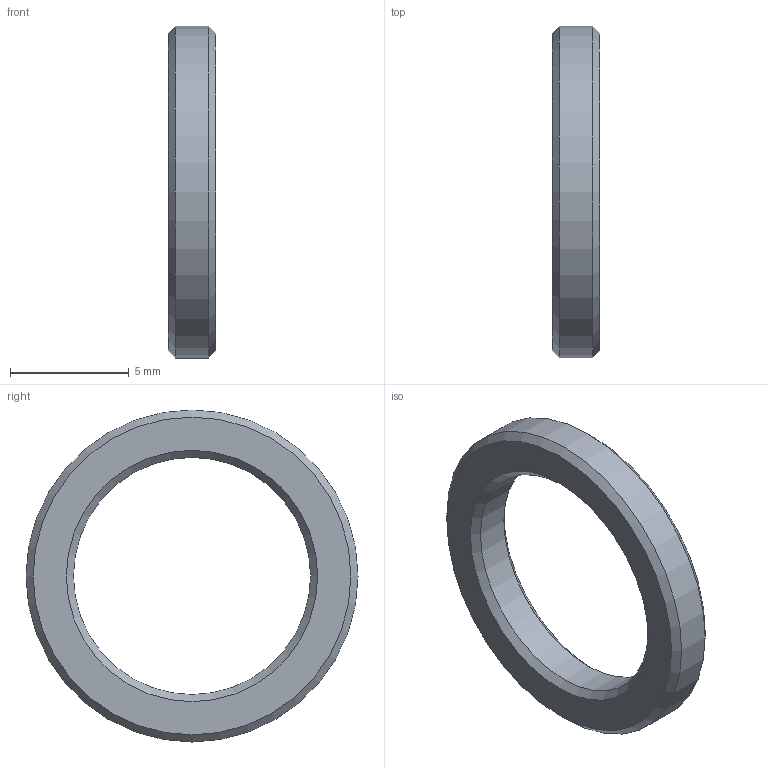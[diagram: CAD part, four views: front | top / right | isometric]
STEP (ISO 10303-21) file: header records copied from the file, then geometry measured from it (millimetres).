
FILE_DESCRIPTION(/* description */ (''),/* implementation_level */ '2;1');
FILE_NAME(/* name */ '',/* time_stamp */ '2026-04-27T11:13:49+09:00',/* author */ ('jhkim'),/* organization */ (''),/* preprocessor_version */ 'ST-DEVELOPER v20.1',/* originating_system */ 'Autodesk Inventor 2027',/* authorisation */ '');
FILE_SCHEMA (('AUTOMOTIVE_DESIGN { 1 0 10303 214 3 1 1 }'));
Length unit declared in the file: millimetre
Products named in the file (1): 칼라
Bounding box: 2 x 14 x 14 mm (x, y, z)
Volume: 144 mm3; surface area: 275.1 mm2
Topology: 1 solids, 1 shells, 8 faces, 18 edges, 12 vertices
Faces by surface type: cone 4, plane 2, cylinder 2
Full cylindrical faces by diameter (mm): 10 x1, 14 x1
Entity records: 281 total; most frequent: DIRECTION 48, CARTESIAN_POINT 39, ORIENTED_EDGE 36, AXIS2_PLACEMENT_3D 21, EDGE_CURVE 18, CIRCLE 12, VERTEX_POINT 12, EDGE_LOOP 10
